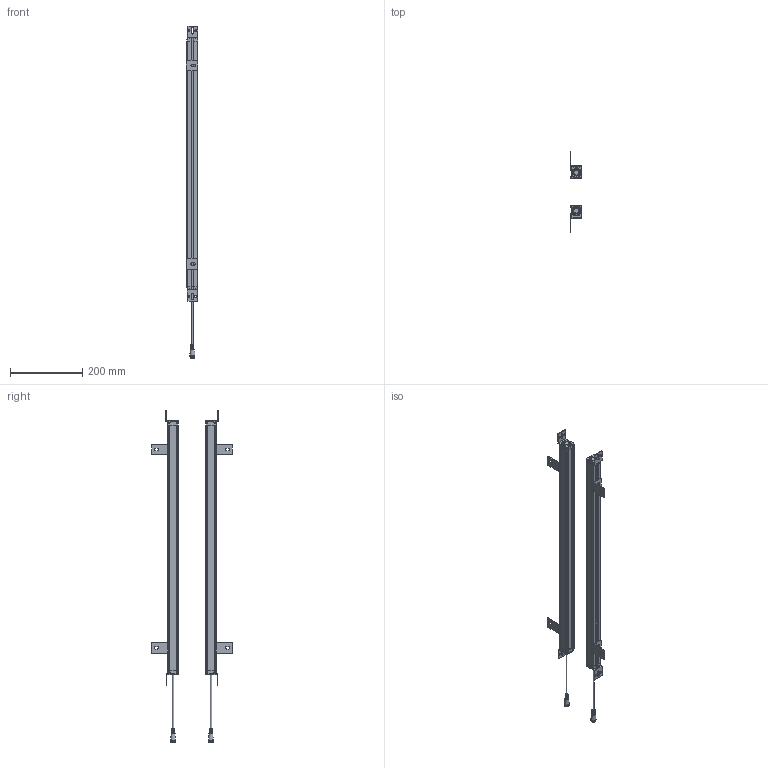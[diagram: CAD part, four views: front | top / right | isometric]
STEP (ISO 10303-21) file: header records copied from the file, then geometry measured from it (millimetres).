
FILE_DESCRIPTION(/* description */ (''),/* implementation_level */ '2;1');
FILE_NAME(/* name */ '3420（29x30）.stp',/* time_stamp */ '2023-04-28T14:40:46+08:00',/* author */ (''),/* organization */ (''),/* preprocessor_version */ 'ST-DEVELOPER v16.7',/* originating_system */ 'SIEMENS PLM Software NX 12.0',/* authorisation */ '');
FILE_SCHEMA (('AUTOMOTIVE_DESIGN { 1 0 10303 214 3 1 1 1 }'));
Products named in the file (1): 3420（29x30）_stp
Bounding box: 32.03 x 223.99 x 921 mm (x, y, z)
Volume: 455358.3 mm3; surface area: 471654.5 mm2
Topology: 34 solids, 34 shells, 1610 faces, 4267 edges, 2771 vertices
Faces by surface type: plane 750, cylinder 648, bspline 88, sphere 36, cone 36, torus 32, extrusion 20
Full cylindrical faces by diameter (mm): 1.533 x6, 4.4 x4, 9 x2, 12.5 x2
Entity records: 56427 total; most frequent: CARTESIAN_POINT 16064, DIRECTION 8330, ORIENTED_EDGE 8324, EDGE_CURVE 4162, AXIS2_PLACEMENT_3D 2918, VERTEX_POINT 2696, VECTOR 2494, LINE 2474
